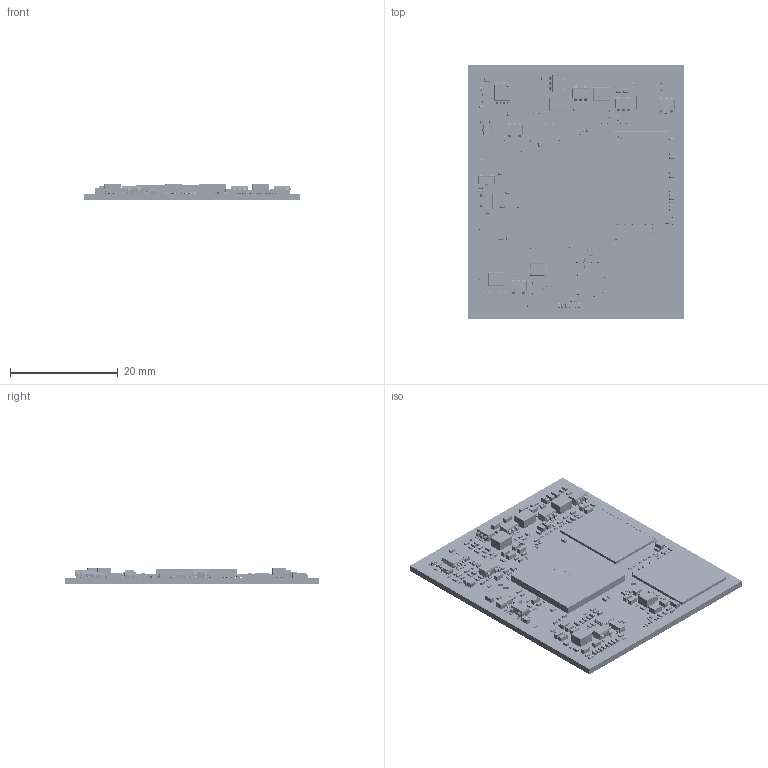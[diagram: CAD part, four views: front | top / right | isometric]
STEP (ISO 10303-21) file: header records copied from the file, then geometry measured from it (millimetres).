
FILE_DESCRIPTION(/* description */ ('PCB Design'),/* implementation_level */ '2;1');
FILE_NAME(/* name */ 'CM3566_3D',/* time_stamp */ '2023-04-13T17:04:25+08:00',/* author */ (''),/* organization */ (''),/* preprocessor_version */ 'ST-DEVELOPER v16',/* originating_system */ 'allegro_17.2S053',/* authorisation */ '');
FILE_SCHEMA (('AUTOMOTIVE_DESIGN { 1 0 10303 214 3 1 1 }'));
Products named in the file (286): CM3566_V3; BOARD_OUTLINE; COMPONENTS; DIP186_47X40MM; BGA565_15R50X14R40X0R90; TP_0R70; EMI_CLIP; LED0603; CY3215; SOT_323; MSOP8; R0603; IND_252012; CRY4_3R20X2R50X0R80; BGA153_13R00X11R50X0R90_2L; IND_404026; CSP20_1R96X1R56X0R66; SOT_23_5; L0402; C0603; IND_404030; SOT_23; C0402; BGA200_15R00X10R00X0R90; C0201; R0402; 458017361; 458018769; Extruded16; Extruded12; 458017873; Extruded14; 458018001; Extruded15; Extruded18; Extruded11; 458017745; 458018257; Extruded17; Free-Models1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
Assembly tree (744 placements, depth 7):
  CM3566_V3
    BOARD_OUTLINE
    COMPONENTS
      DIP186_47X40MM
      BGA565_15R50X14R40X0R90
        User Library-BGA(LFBGA)-217
          Free-Models1
            458018001
              Extruded13
            458017361
              Extruded19
            458017233
              Extruded12
            458017489
              Extruded15
            458017617
              Extruded16
            458017745
              Extruded14
            458017873
              Extruded11
            458018257
              Extruded17
            458018769  x208
              Sphere1
            458018513
              Extruded10
            457787489
              Cylinder1
            458018129
              Extruded18
          Board1
      TP_0R70  x7
      EMI_CLIP  x8
      LED0603
        User Library-LED_0603_R
          Pocket002
          Pad004
          Fillet
          Pocket001
          Pad
      CY3215
        0637D9F9-BE46-411F-B9CE-197B637E80A1
      SOT_323  x2
        PTSP0003JA-A
      MSOP8
        User Library-msop-8
      R0603
        0
        CR1608-0603
      IND_252012
        User Library-INDM2520X190N
      CRY4_3R20X2R50X0R80
        0
        3225-1
      BGA153_13R00X11R50X0R90_2L
        A3025639-B606-49D8-87C5-9FA25282E8C4
      IND_404026  x2
        User Library-3225
          Component1
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Bounding box: 40 x 47 x 3.08 mm (x, y, z)
Volume: 749.3 mm3; surface area: 11685.7 mm2
Topology: 1692 solids, 1901 shells, 39859 faces, 97599 edges, 61446 vertices
Faces by surface type: bspline 25577, plane 10730, cylinder 2266, sphere 1248, torus 28, cone 10
Entity records: 99486 total; most frequent: CARTESIAN_POINT 33776, ORIENTED_EDGE 9027, DIRECTION 7935, EDGE_CURVE 4526, AXIS2_PLACEMENT_3D 3209, VERTEX_POINT 3187, EDGE_LOOP 2296, FACE_OUTER_BOUND 2246
